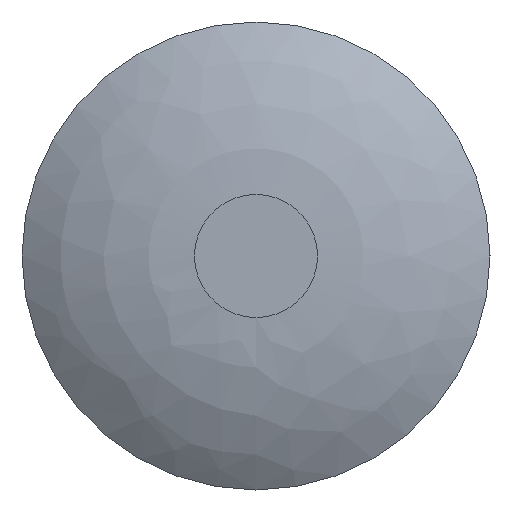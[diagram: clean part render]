
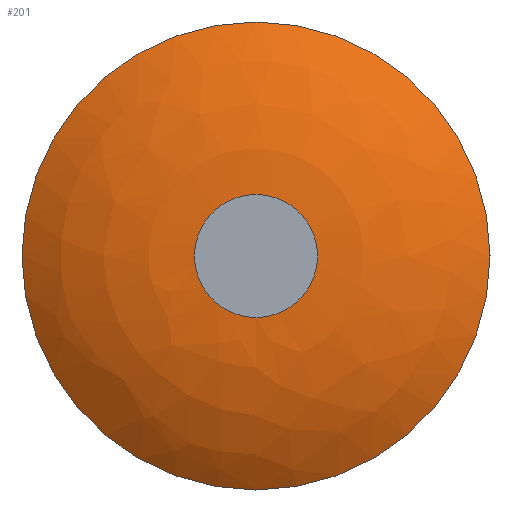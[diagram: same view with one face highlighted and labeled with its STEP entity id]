
A CAD part, left-side view. The second image highlights one B-rep face of the part: STEP entity #201.
In plain terms, the highlighted free-form (B-spline) face has degree [2, 2] with [3, 9] control points.
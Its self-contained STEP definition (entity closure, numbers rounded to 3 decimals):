
#129=CARTESIAN_POINT('',(-52.6,0.0,-19.0));
#130=VERTEX_POINT('',#129);
#131=CARTESIAN_POINT('',(-52.6,0.0,0.0));
#132=DIRECTION('',(1.0,0.0,0.0));
#133=DIRECTION('',(0.0,0.0,-1.0));
#134=AXIS2_PLACEMENT_3D('',#131,#132,#133);
#135=CIRCLE('',#134,19.);
#136=EDGE_CURVE('',#130,#130,#135,.T.);
#152=CARTESIAN_POINT('',(-56.484,0.,0.));
#153=CARTESIAN_POINT('',(-58.641,0.,10.338));
#154=CARTESIAN_POINT('',(-52.6,0.,19.));
#155=CARTESIAN_POINT('',(-56.484,0.,0.));
#156=CARTESIAN_POINT('',(-58.641,10.338,10.338));
#157=CARTESIAN_POINT('',(-52.6,19.,19.));
#158=CARTESIAN_POINT('',(-56.484,0.,0.));
#159=CARTESIAN_POINT('',(-58.641,10.338,0.));
#160=CARTESIAN_POINT('',(-52.6,19.,0.));
#161=CARTESIAN_POINT('',(-56.484,0.,0.));
#162=CARTESIAN_POINT('',(-58.641,10.338,-10.338));
#163=CARTESIAN_POINT('',(-52.6,19.,-19.));
#164=CARTESIAN_POINT('',(-56.484,0.,0.));
#165=CARTESIAN_POINT('',(-58.641,0.,-10.338));
#166=CARTESIAN_POINT('',(-52.6,0.,-19.));
#167=CARTESIAN_POINT('',(-56.484,0.,0.));
#168=CARTESIAN_POINT('',(-58.641,-10.338,-10.338));
#169=CARTESIAN_POINT('',(-52.6,-19.,-19.));
#170=CARTESIAN_POINT('',(-56.484,0.,0.));
#171=CARTESIAN_POINT('',(-58.641,-10.338,0.));
#172=CARTESIAN_POINT('',(-52.6,-19.,0.));
#173=CARTESIAN_POINT('',(-56.484,0.,0.));
#174=CARTESIAN_POINT('',(-58.641,-10.338,10.338));
#175=CARTESIAN_POINT('',(-52.6,-19.,19.));
#176=CARTESIAN_POINT('',(-56.484,0.,0.));
#177=CARTESIAN_POINT('',(-58.641,0.,10.338));
#178=CARTESIAN_POINT('',(-52.6,0.,19.));
#186=(BOUNDED_SURFACE()B_SPLINE_SURFACE(2,2,((#152,#155,#158,#161,#164,#167,#170,#173,#176),(#153,#156,#159,#162,#165,#168,#171,#174,#177),(#154,#157,#160,#163,#166,#169,#172,#175,#178)),.UNSPECIFIED.,.F.,.T.,.U.)B_SPLINE_SURFACE_WITH_KNOTS((3,3),(3,2,2,2,3),(-1.777,-0.962),(0.0,1.571,3.142,4.712,6.283),.UNSPECIFIED.)GEOMETRIC_REPRESENTATION_ITEM()RATIONAL_B_SPLINE_SURFACE(((1.0,0.707,1.0,0.707,1.0,0.707,1.0,0.707,1.0),(0.918,0.649,0.918,0.649,0.918,0.649,0.918,0.649,0.918),(1.0,0.707,1.0,0.707,1.0,0.707,1.0,0.707,1.0)))REPRESENTATION_ITEM('')SURFACE());
#187=CARTESIAN_POINT('',(-57.,0.0,-5.0));
#188=VERTEX_POINT('',#187);
#189=CARTESIAN_POINT('',(-57.,0.0,0.0));
#190=DIRECTION('',(1.0,0.0,0.0));
#191=DIRECTION('',(0.0,0.0,-1.0));
#192=AXIS2_PLACEMENT_3D('',#189,#190,#191);
#193=CIRCLE('',#192,5.0);
#194=EDGE_CURVE('',#188,#188,#193,.T.);
#195=ORIENTED_EDGE('',*,*,#194,.T.);
#196=EDGE_LOOP('',(#195));
#197=FACE_OUTER_BOUND('',#196,.T.);
#198=ORIENTED_EDGE('',*,*,#136,.F.);
#199=EDGE_LOOP('',(#198));
#200=FACE_BOUND('',#199,.T.);
#201=ADVANCED_FACE('',(#197,#200),#186,.T.);
